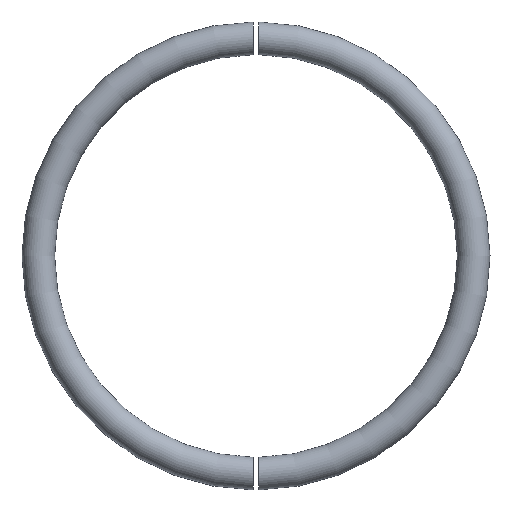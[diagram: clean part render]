
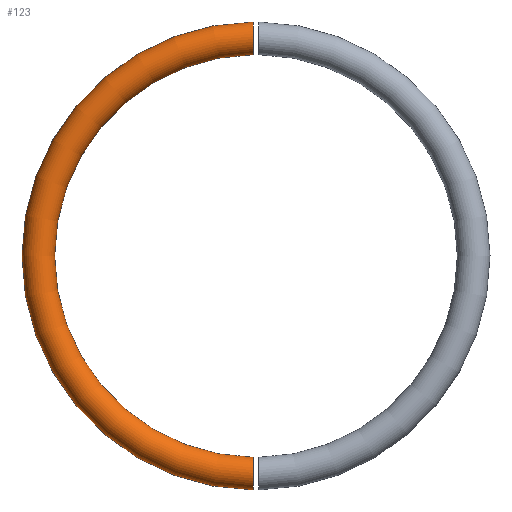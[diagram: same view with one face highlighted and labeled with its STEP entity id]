
A CAD part, top view. The second image highlights one B-rep face of the part: STEP entity #123.
In plain terms, the highlighted toroidal (fillet/blend) face has major radius 40 mm and minor radius 3 mm.
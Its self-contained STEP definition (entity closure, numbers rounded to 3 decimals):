
#31=CARTESIAN_POINT('Axis2P3D Location',(0.,0.,0.)) ;
#49=CARTESIAN_POINT('Vertex',(-0.5,36.997,0.)) ;
#51=CARTESIAN_POINT('Vertex',(-0.5,42.997,0.)) ;
#54=CARTESIAN_POINT('Axis2P3D Location',(0.,0.,0.)) ;
#58=CARTESIAN_POINT('Vertex',(-0.5,-36.997,0.)) ;
#74=CARTESIAN_POINT('Vertex',(-0.5,-42.997,0.)) ;
#77=CARTESIAN_POINT('Axis2P3D Location',(0.,0.,0.)) ;
#90=CARTESIAN_POINT('Control Point',(-0.5,36.997,0.)) ;
#91=CARTESIAN_POINT('Control Point',(-0.5,36.997,0.684)) ;
#92=CARTESIAN_POINT('Control Point',(-0.5,37.192,1.369)) ;
#93=CARTESIAN_POINT('Control Point',(-0.5,37.583,1.979)) ;
#94=CARTESIAN_POINT('Control Point',(-0.5,38.394,2.673)) ;
#95=CARTESIAN_POINT('Control Point',(-0.5,39.389,2.968)) ;
#96=CARTESIAN_POINT('Control Point',(-0.5,39.733,3.018)) ;
#97=CARTESIAN_POINT('Control Point',(-0.5,40.945,3.019)) ;
#98=CARTESIAN_POINT('Control Point',(-0.5,42.074,2.426)) ;
#99=CARTESIAN_POINT('Control Point',(-0.5,42.69,1.716)) ;
#100=CARTESIAN_POINT('Control Point',(-0.5,42.997,0.858)) ;
#101=CARTESIAN_POINT('Control Point',(-0.5,42.997,0.)) ;
#104=CARTESIAN_POINT('Control Point',(-0.5,-36.997,0.)) ;
#105=CARTESIAN_POINT('Control Point',(-0.5,-36.997,0.684)) ;
#106=CARTESIAN_POINT('Control Point',(-0.5,-37.192,1.369)) ;
#107=CARTESIAN_POINT('Control Point',(-0.5,-37.583,1.979)) ;
#108=CARTESIAN_POINT('Control Point',(-0.5,-38.394,2.673)) ;
#109=CARTESIAN_POINT('Control Point',(-0.5,-39.389,2.968)) ;
#110=CARTESIAN_POINT('Control Point',(-0.5,-39.733,3.018)) ;
#111=CARTESIAN_POINT('Control Point',(-0.5,-40.945,3.019)) ;
#112=CARTESIAN_POINT('Control Point',(-0.5,-42.074,2.426)) ;
#113=CARTESIAN_POINT('Control Point',(-0.5,-42.69,1.716)) ;
#114=CARTESIAN_POINT('Control Point',(-0.5,-42.997,0.858)) ;
#115=CARTESIAN_POINT('Control Point',(-0.5,-42.997,0.)) ;
#32=DIRECTION('Axis2P3D Direction',(0.,0.,1.)) ;
#33=DIRECTION('Axis2P3D XDirection',(0.,1.,0.)) ;
#55=DIRECTION('Axis2P3D Direction',(0.,0.,1.)) ;
#78=DIRECTION('Axis2P3D Direction',(0.,0.,1.)) ;
#34=AXIS2_PLACEMENT_3D('Torus Axis2P3D',#31,#32,#33) ;
#56=AXIS2_PLACEMENT_3D('Circle Axis2P3D',#54,#55,$) ;
#79=AXIS2_PLACEMENT_3D('Circle Axis2P3D',#77,#78,$) ;
#57=CIRCLE('generated circle',#56,37.) ;
#80=CIRCLE('generated circle',#79,43.) ;
#35=TOROIDAL_SURFACE('homeo Torus',#34,40.,3.) ;
#60=EDGE_CURVE('',#50,#59,#57,.T.) ;
#81=EDGE_CURVE('',#52,#75,#80,.T.) ;
#102=EDGE_CURVE('',#50,#52,#89,.T.) ;
#116=EDGE_CURVE('',#59,#75,#103,.T.) ;
#117=EDGE_LOOP('',(#118,#119,#120,#121)) ;
#118=ORIENTED_EDGE('',*,*,#102,.T.) ;
#119=ORIENTED_EDGE('',*,*,#81,.T.) ;
#120=ORIENTED_EDGE('',*,*,#116,.F.) ;
#121=ORIENTED_EDGE('',*,*,#60,.F.) ;
#50=VERTEX_POINT('',#49) ;
#52=VERTEX_POINT('',#51) ;
#59=VERTEX_POINT('',#58) ;
#75=VERTEX_POINT('',#74) ;
#123=ADVANCED_FACE('PartBody',(#122),#35,.T.) ;
#89=B_SPLINE_CURVE_WITH_KNOTS('',5,(#90,#91,#92,#93,#94,#95,#96,#97,#98,#99,#100,#101),.UNSPECIFIED.,.F.,.U.,(6,3,3,6),(0.,4.84,7.261,13.329),.UNSPECIFIED.) ;
#103=B_SPLINE_CURVE_WITH_KNOTS('',5,(#104,#105,#106,#107,#108,#109,#110,#111,#112,#113,#114,#115),.UNSPECIFIED.,.F.,.U.,(6,3,3,6),(0.,4.84,7.261,13.329),.UNSPECIFIED.) ;
#122=FACE_OUTER_BOUND('',#117,.T.) ;
